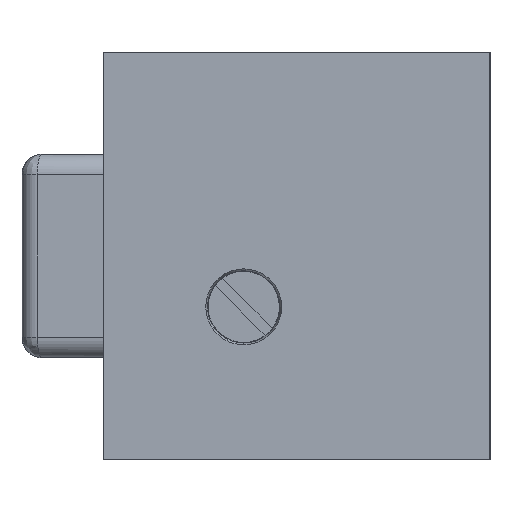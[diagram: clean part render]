
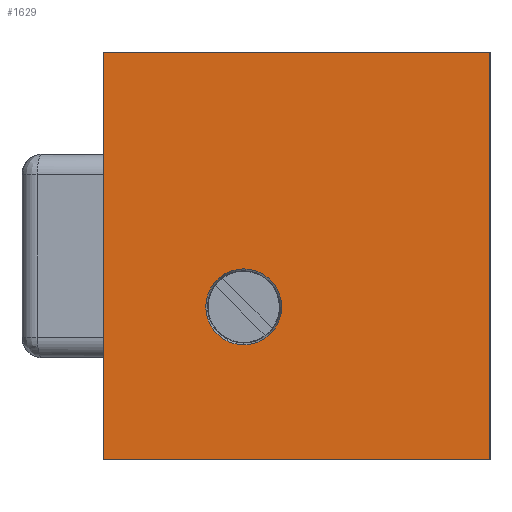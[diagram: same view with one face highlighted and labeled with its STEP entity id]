
A CAD part, left-side view. The second image highlights one B-rep face of the part: STEP entity #1629.
In plain terms, the highlighted planar face has unit normal (-1, 0, 0).
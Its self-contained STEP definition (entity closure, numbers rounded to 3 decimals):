
#65 = VECTOR ( 'NONE', #3998, 1000. ) ;
#82 = VECTOR ( 'NONE', #398, 1000. ) ;
#91 = LINE ( 'NONE', #3443, #6075 ) ;
#109 = DIRECTION ( 'NONE',  ( -1., 0., 0. ) ) ;
#113 = ORIENTED_EDGE ( 'NONE', *, *, #3731, .T. ) ;
#139 = AXIS2_PLACEMENT_3D ( 'NONE', #375, #378, #388 ) ;
#223 = CIRCLE ( 'NONE', #139, 3.732 ) ;
#327 = EDGE_LOOP ( 'NONE', ( #3298, #4877, #4935, #113 ) ) ;
#333 = CARTESIAN_POINT ( 'NONE',  ( 0., 0., -40. ) ) ;
#375 = CARTESIAN_POINT ( 'NONE',  ( 0., 24.2, -25. ) ) ;
#378 = DIRECTION ( 'NONE',  ( 1., 0., 0. ) ) ;
#388 = DIRECTION ( 'NONE',  ( 0., 0., 1. ) ) ;
#398 = DIRECTION ( 'NONE',  ( 0., -1., 0. ) ) ;
#422 = CARTESIAN_POINT ( 'NONE',  ( 0., 0., 0. ) ) ;
#447 = EDGE_CURVE ( 'NONE', #4509, #4019, #223, .T. ) ;
#483 = LINE ( 'NONE', #3951, #65 ) ;
#487 = EDGE_CURVE ( 'NONE', #1193, #5519, #516, .T. ) ;
#508 = CARTESIAN_POINT ( 'NONE',  ( 0., 24.2, -28.732 ) ) ;
#516 = LINE ( 'NONE', #422, #82 ) ;
#570 = VECTOR ( 'NONE', #3166, 1000. ) ;
#1063 = ORIENTED_EDGE ( 'NONE', *, *, #447, .T. ) ;
#1193 = VERTEX_POINT ( 'NONE', #4116 ) ;
#1629 = ADVANCED_FACE ( 'NONE', ( #2570, #5770 ), #3425, .T. ) ;
#1668 = CARTESIAN_POINT ( 'NONE',  ( 0., 24.2, -21.268 ) ) ;
#1893 = DIRECTION ( 'NONE',  ( 0., 0., 1. ) ) ;
#2130 = ORIENTED_EDGE ( 'NONE', *, *, #5245, .T. ) ;
#2570 = FACE_BOUND ( 'NONE', #5228, .T. ) ;
#2837 = VERTEX_POINT ( 'NONE', #333 ) ;
#2918 = CARTESIAN_POINT ( 'NONE',  ( 0., 24.2, -25. ) ) ;
#3166 = DIRECTION ( 'NONE',  ( 0., 0., 1. ) ) ;
#3232 = CARTESIAN_POINT ( 'NONE',  ( 0., 0., -40. ) ) ;
#3298 = ORIENTED_EDGE ( 'NONE', *, *, #487, .F. ) ;
#3425 = PLANE ( 'NONE',  #5094 ) ;
#3443 = CARTESIAN_POINT ( 'NONE',  ( 0., 0., -40. ) ) ;
#3679 = EDGE_CURVE ( 'NONE', #6146, #1193, #483, .T. ) ;
#3693 = EDGE_CURVE ( 'NONE', #6146, #2837, #91, .T. ) ;
#3731 = EDGE_CURVE ( 'NONE', #2837, #5519, #5205, .T. ) ;
#3951 = CARTESIAN_POINT ( 'NONE',  ( 0., 38., -40. ) ) ;
#3998 = DIRECTION ( 'NONE',  ( 0., 0., 1. ) ) ;
#4019 = VERTEX_POINT ( 'NONE', #1668 ) ;
#4116 = CARTESIAN_POINT ( 'NONE',  ( 0., 38., 0. ) ) ;
#4185 = DIRECTION ( 'NONE',  ( 0., -1., 0. ) ) ;
#4509 = VERTEX_POINT ( 'NONE', #508 ) ;
#4678 = CIRCLE ( 'NONE', #5110, 3.732 ) ;
#4877 = ORIENTED_EDGE ( 'NONE', *, *, #3679, .F. ) ;
#4893 = CARTESIAN_POINT ( 'NONE',  ( 0., 38., -40. ) ) ;
#4935 = ORIENTED_EDGE ( 'NONE', *, *, #3693, .T. ) ;
#5094 = AXIS2_PLACEMENT_3D ( 'NONE', #6118, #109, #5113 ) ;
#5110 = AXIS2_PLACEMENT_3D ( 'NONE', #2918, #5976, #1893 ) ;
#5113 = DIRECTION ( 'NONE',  ( 0., 0., 1. ) ) ;
#5205 = LINE ( 'NONE', #3232, #570 ) ;
#5228 = EDGE_LOOP ( 'NONE', ( #2130, #1063 ) ) ;
#5245 = EDGE_CURVE ( 'NONE', #4019, #4509, #4678, .T. ) ;
#5519 = VERTEX_POINT ( 'NONE', #5934 ) ;
#5770 = FACE_OUTER_BOUND ( 'NONE', #327, .T. ) ;
#5934 = CARTESIAN_POINT ( 'NONE',  ( 0., 0., 0. ) ) ;
#5976 = DIRECTION ( 'NONE',  ( 1., 0., 0. ) ) ;
#6075 = VECTOR ( 'NONE', #4185, 1000. ) ;
#6118 = CARTESIAN_POINT ( 'NONE',  ( 0., 0., -40. ) ) ;
#6146 = VERTEX_POINT ( 'NONE', #4893 ) ;
